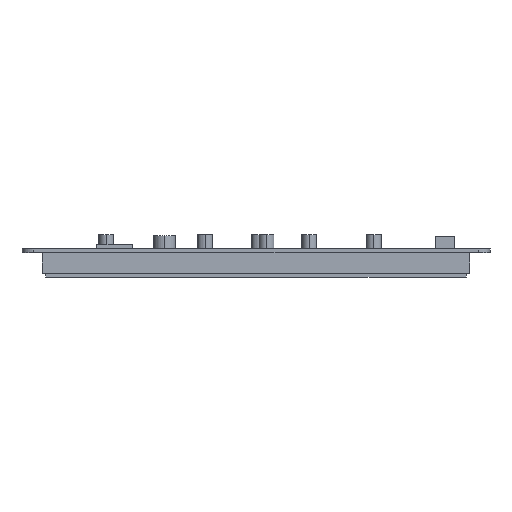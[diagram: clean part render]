
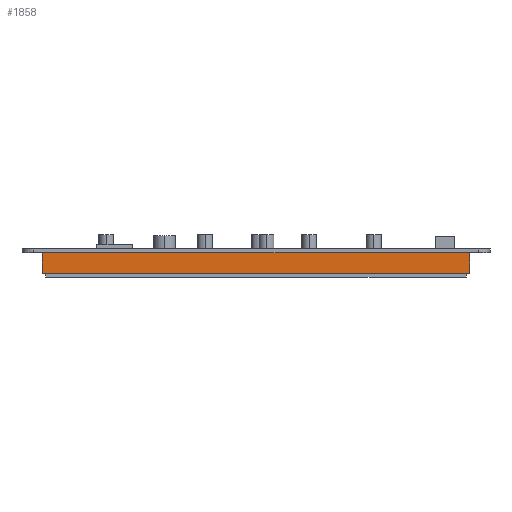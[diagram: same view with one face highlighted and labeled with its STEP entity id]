
A CAD part, left-side view. The second image highlights one B-rep face of the part: STEP entity #1858.
In plain terms, the highlighted planar face has unit normal (-1, 0, 0).
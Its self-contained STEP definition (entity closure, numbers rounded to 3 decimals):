
#425=DIRECTION('',(0.,1.,0.));
#426=VECTOR('',#425,176.8);
#427=CARTESIAN_POINT('',(-113.75,-91.55,-1.6));
#428=LINE('',#427,#426);
#581=DIRECTION('',(0.,0.,-1.));
#582=VECTOR('',#581,8.5);
#583=CARTESIAN_POINT('',(-113.75,-91.55,-1.6));
#584=LINE('',#583,#582);
#593=DIRECTION('',(0.,0.,-1.));
#594=VECTOR('',#593,8.5);
#595=CARTESIAN_POINT('',(-113.75,85.25,-1.6));
#596=LINE('',#595,#594);
#597=DIRECTION('',(0.,1.,0.));
#598=VECTOR('',#597,176.8);
#599=CARTESIAN_POINT('',(-113.75,-91.55,-10.1));
#600=LINE('',#599,#598);
#1085=CARTESIAN_POINT('',(-113.75,-91.55,-10.1));
#1086=CARTESIAN_POINT('',(-113.75,85.25,-10.1));
#1087=VERTEX_POINT('',#1085);
#1088=VERTEX_POINT('',#1086);
#1093=CARTESIAN_POINT('',(-113.75,-91.55,-1.6));
#1094=CARTESIAN_POINT('',(-113.75,85.25,-1.6));
#1095=VERTEX_POINT('',#1093);
#1096=VERTEX_POINT('',#1094);
#1844=CARTESIAN_POINT('',(-113.75,-91.55,-1.6));
#1845=DIRECTION('',(-1.,0.,0.));
#1846=DIRECTION('',(0.,1.,0.));
#1847=AXIS2_PLACEMENT_3D('',#1844,#1845,#1846);
#1848=PLANE('',#1847);
#1849=ORIENTED_EDGE('',*,*,#1453,.F.);
#1851=ORIENTED_EDGE('',*,*,#1850,.T.);
#1853=ORIENTED_EDGE('',*,*,#1852,.T.);
#1855=ORIENTED_EDGE('',*,*,#1854,.F.);
#1856=EDGE_LOOP('',(#1849,#1851,#1853,#1855));
#1857=FACE_OUTER_BOUND('',#1856,.F.);
#1453=EDGE_CURVE('',#1095,#1096,#428,.T.);
#1850=EDGE_CURVE('',#1095,#1087,#584,.T.);
#1852=EDGE_CURVE('',#1087,#1088,#600,.T.);
#1854=EDGE_CURVE('',#1096,#1088,#596,.T.);
#1858=ADVANCED_FACE('',(#1857),#1848,.T.);
